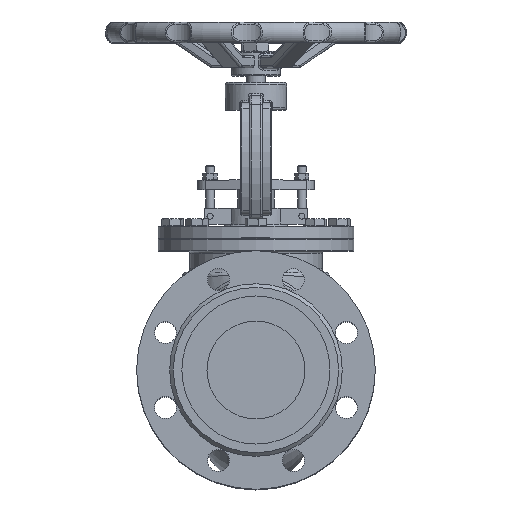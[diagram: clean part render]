
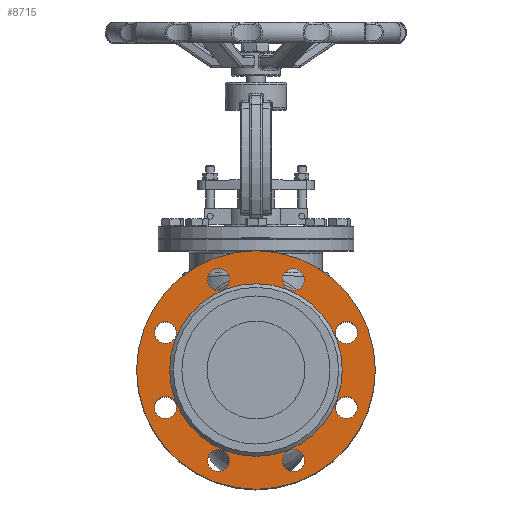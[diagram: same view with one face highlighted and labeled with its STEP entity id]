
A CAD part, top view. The second image highlights one B-rep face of the part: STEP entity #8715.
In plain terms, the highlighted planar face has unit normal (0, 0, 1).
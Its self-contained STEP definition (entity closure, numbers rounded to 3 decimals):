
#8715=ADVANCED_FACE('',(#19338,#19340,#19342,#19344,#19346,#19348,#19350,#19352,
#19354,#19356),#19358,.F.);
#19338=FACE_BOUND('',#19339,.T.);
#19339=EDGE_LOOP('',(#26708));
#19340=FACE_BOUND('',#19341,.T.);
#19341=EDGE_LOOP('',(#26709));
#19342=FACE_BOUND('',#19343,.T.);
#19343=EDGE_LOOP('',(#26710));
#19344=FACE_BOUND('',#19345,.T.);
#19345=EDGE_LOOP('',(#26711));
#19346=FACE_BOUND('',#19347,.T.);
#19347=EDGE_LOOP('',(#26712));
#19348=FACE_BOUND('',#19349,.T.);
#19349=EDGE_LOOP('',(#26713));
#19350=FACE_BOUND('',#19351,.T.);
#19351=EDGE_LOOP('',(#26714));
#19352=FACE_BOUND('',#19353,.T.);
#19353=EDGE_LOOP('',(#26715));
#19354=FACE_BOUND('',#19355,.T.);
#19355=EDGE_LOOP('',(#26716));
#19356=FACE_BOUND('',#19357,.T.);
#19357=EDGE_LOOP('',(#26717));
#19358=PLANE('',#19359);
#19359=AXIS2_PLACEMENT_3D('',#19360,#19361,#19362);
#19360=CARTESIAN_POINT('',(0.,0.,152.));
#19361=DIRECTION('',(0.,0.,-1.));
#19362=DIRECTION('',(0.,1.,0.));
#26708=ORIENTED_EDGE('',*,*,#29820,.T.);
#26709=ORIENTED_EDGE('',*,*,#29821,.T.);
#26710=ORIENTED_EDGE('',*,*,#29822,.T.);
#26711=ORIENTED_EDGE('',*,*,#29823,.T.);
#26712=ORIENTED_EDGE('',*,*,#29824,.T.);
#26713=ORIENTED_EDGE('',*,*,#30100,.F.);
#26714=ORIENTED_EDGE('',*,*,#29825,.T.);
#26715=ORIENTED_EDGE('',*,*,#29826,.T.);
#26716=ORIENTED_EDGE('',*,*,#29827,.T.);
#26717=ORIENTED_EDGE('',*,*,#29828,.T.);
#29820=EDGE_CURVE('',#33914,#33914,#33915,.T.);
#29821=EDGE_CURVE('',#33916,#33916,#33917,.T.);
#29822=EDGE_CURVE('',#33918,#33918,#33919,.T.);
#29823=EDGE_CURVE('',#33920,#33920,#33921,.T.);
#29824=EDGE_CURVE('',#33922,#33922,#33923,.T.);
#29825=EDGE_CURVE('',#33924,#33924,#33925,.T.);
#29826=EDGE_CURVE('',#33926,#33926,#33927,.T.);
#29827=EDGE_CURVE('',#33928,#33928,#33929,.T.);
#29828=EDGE_CURVE('',#33930,#33930,#33931,.T.);
#30100=EDGE_CURVE('',#34374,#34374,#34375,.T.);
#33914=VERTEX_POINT('',#62647);
#33915=CIRCLE('',#62648,97.5);
#33916=VERTEX_POINT('',#62652);
#33917=CIRCLE('',#62653,9.);
#33918=VERTEX_POINT('',#62657);
#33919=CIRCLE('',#62658,9.);
#33920=VERTEX_POINT('',#62662);
#33921=CIRCLE('',#62663,9.);
#33922=VERTEX_POINT('',#62667);
#33923=CIRCLE('',#62668,9.);
#33924=VERTEX_POINT('',#62672);
#33925=CIRCLE('',#62673,9.);
#33926=VERTEX_POINT('',#62677);
#33927=CIRCLE('',#62678,9.);
#33928=VERTEX_POINT('',#62682);
#33929=CIRCLE('',#62683,9.);
#33930=VERTEX_POINT('',#62687);
#33931=CIRCLE('',#62688,9.);
#34374=VERTEX_POINT('',#65284);
#34375=CIRCLE('',#65285,70.5);
#62647=CARTESIAN_POINT('',(0.,97.5,152.));
#62648=AXIS2_PLACEMENT_3D('',#62649,#62650,#62651);
#62649=CARTESIAN_POINT('',(0.,0.,152.));
#62650=DIRECTION('',(0.,0.,1.));
#62651=DIRECTION('',(0.,1.,0.));
#62652=CARTESIAN_POINT('',(67.546,36.979,152.));
#62653=AXIS2_PLACEMENT_3D('',#62654,#62655,#62656);
#62654=CARTESIAN_POINT('',(73.91,30.615,152.));
#62655=DIRECTION('',(0.,0.,-1.));
#62656=DIRECTION('',(-0.707,0.707,0.));
#62657=CARTESIAN_POINT('',(36.979,-67.546,152.));
#62658=AXIS2_PLACEMENT_3D('',#62659,#62660,#62661);
#62659=CARTESIAN_POINT('',(30.615,-73.91,152.));
#62660=DIRECTION('',(0.,0.,-1.));
#62661=DIRECTION('',(0.707,0.707,0.));
#62662=CARTESIAN_POINT('',(-67.546,-36.979,152.));
#62663=AXIS2_PLACEMENT_3D('',#62664,#62665,#62666);
#62664=CARTESIAN_POINT('',(-73.91,-30.615,152.));
#62665=DIRECTION('',(0.,0.,-1.));
#62666=DIRECTION('',(0.707,-0.707,0.));
#62667=CARTESIAN_POINT('',(-36.979,67.546,152.));
#62668=AXIS2_PLACEMENT_3D('',#62669,#62670,#62671);
#62669=CARTESIAN_POINT('',(-30.615,73.91,152.));
#62670=DIRECTION('',(0.,0.,-1.));
#62671=DIRECTION('',(-0.707,-0.707,0.));
#62672=CARTESIAN_POINT('',(21.615,73.91,152.));
#62673=AXIS2_PLACEMENT_3D('',#62674,#62675,#62676);
#62674=CARTESIAN_POINT('',(30.615,73.91,152.));
#62675=DIRECTION('',(0.,0.,-1.));
#62676=DIRECTION('',(-1.,0.,0.));
#62677=CARTESIAN_POINT('',(-73.91,21.615,152.));
#62678=AXIS2_PLACEMENT_3D('',#62679,#62680,#62681);
#62679=CARTESIAN_POINT('',(-73.91,30.615,152.));
#62680=DIRECTION('',(0.,0.,-1.));
#62681=DIRECTION('',(0.,-1.,0.));
#62682=CARTESIAN_POINT('',(-21.615,-73.91,152.));
#62683=AXIS2_PLACEMENT_3D('',#62684,#62685,#62686);
#62684=CARTESIAN_POINT('',(-30.615,-73.91,152.));
#62685=DIRECTION('',(0.,0.,-1.));
#62686=DIRECTION('',(1.,0.,0.));
#62687=CARTESIAN_POINT('',(73.91,-21.615,152.));
#62688=AXIS2_PLACEMENT_3D('',#62689,#62690,#62691);
#62689=CARTESIAN_POINT('',(73.91,-30.615,152.));
#62690=DIRECTION('',(0.,0.,-1.));
#62691=DIRECTION('',(0.,1.,0.));
#65284=CARTESIAN_POINT('',(0.,70.5,152.));
#65285=AXIS2_PLACEMENT_3D('',#65286,#65287,#65288);
#65286=CARTESIAN_POINT('',(0.,0.,152.));
#65287=DIRECTION('',(0.,0.,1.));
#65288=DIRECTION('',(0.,1.,0.));
